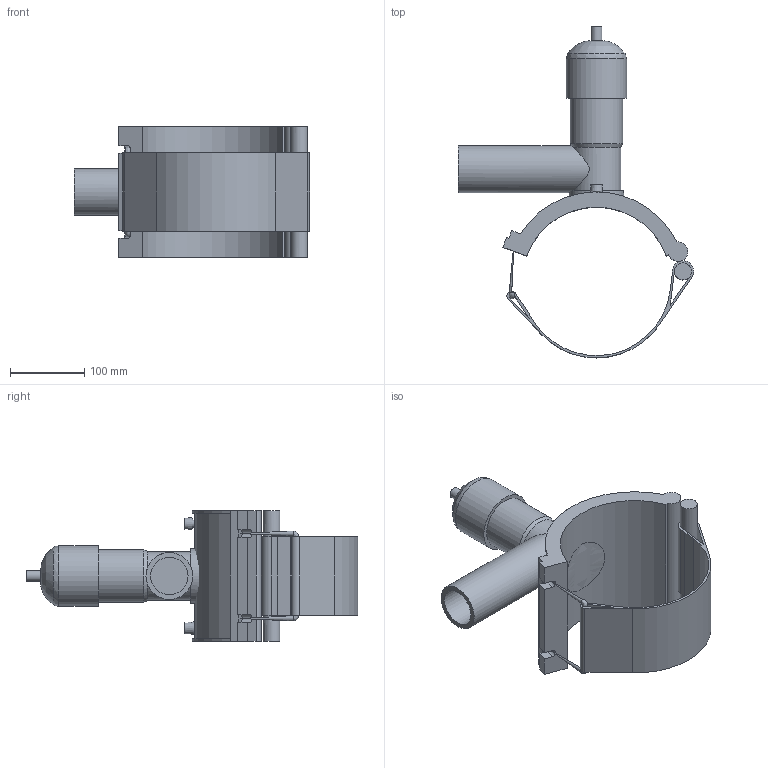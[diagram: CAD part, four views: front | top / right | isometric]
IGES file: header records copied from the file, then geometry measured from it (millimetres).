
Global section: file name: 495404200063.ipt; native system: Autodesk Inventor 2015; preprocessor: unknown; author: KIM; date: 20171106.094309; units: millimetre
Bounding box: 316.95 x 447 x 176 mm (x, y, z)
Volume: 2211125.1 mm3; surface area: 365504.6 mm2
Topology: 3 solids, 4 shells, 81 faces, 201 edges, 133 vertices
Faces by surface type: plane 45, cylinder 20, revolution 13, cone 3
Full cylindrical faces by diameter (mm): 4 x2, 6.8 x2, 14.64 x1, 22.769 x1, 63 x1, 70.76 x1, 73.2 x1, 81.333 x1
